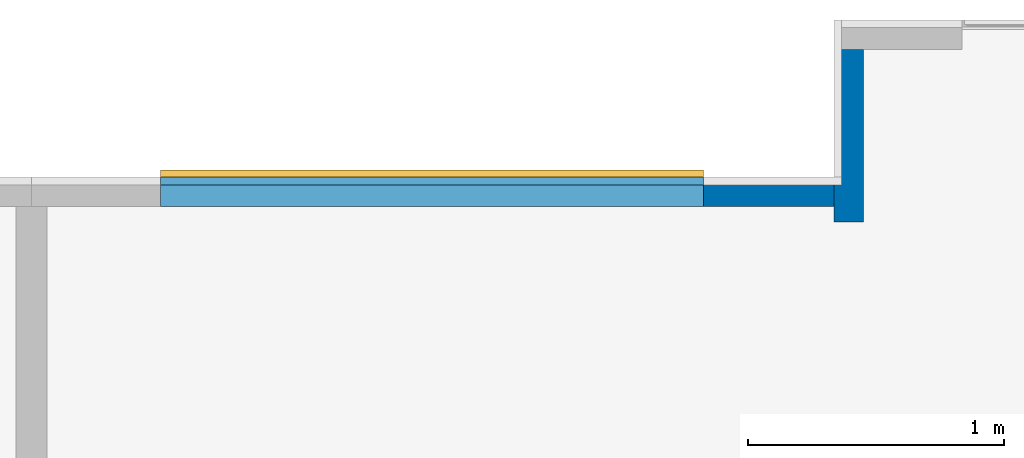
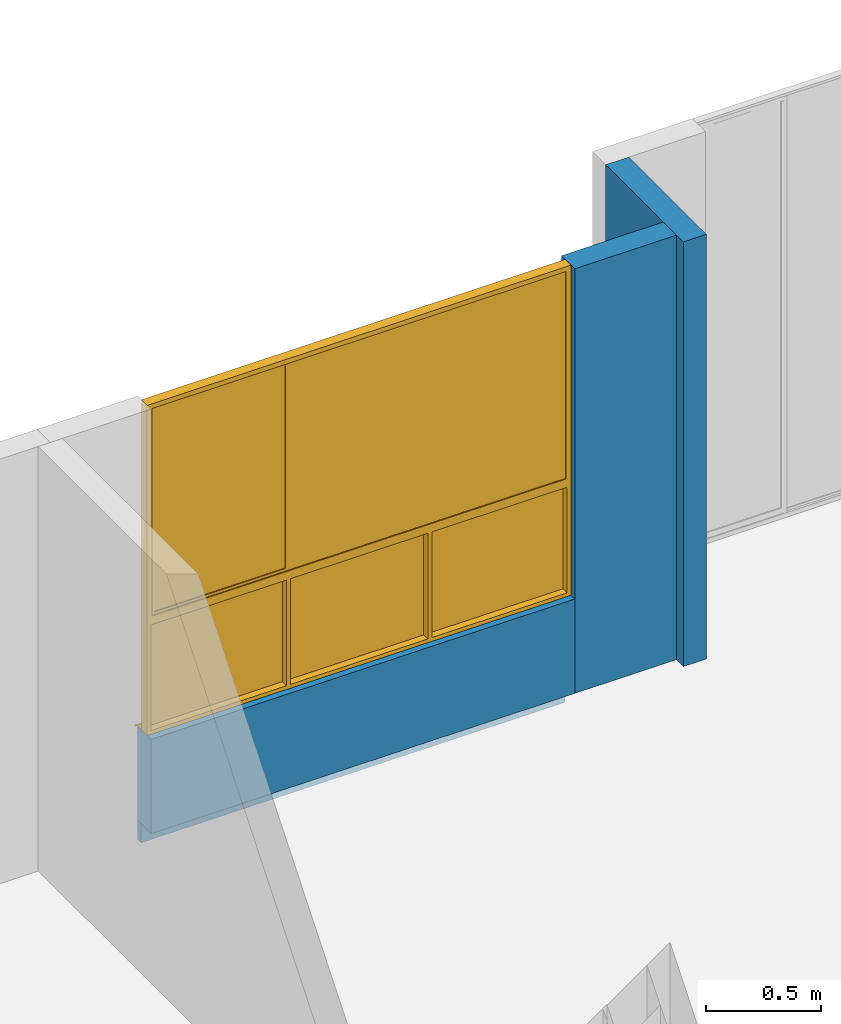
# One storey, part 23 of 48: 4 walls, 1 window, 1 opening.
"""IFC4 building model written with IfcOpenShell, lengths in metres."""

from ifc_helpers import new_model, entity, si_unit, converted_unit, derived_unit, direction, frame, origin, place, context, subcontext, project, spatial, indexed_curve, outline, extrude, polygons, source, transform, mapped, material, constituent, constituent_set, type_object, type_shapes, element, fill, save


model = new_model("IFC4")

# Units and contexts
model_context = context("Model", 3, precision=1e-05, world=origin(), true_north=direction((6.123031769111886e-17, 1.0)))
body_context = subcontext(model_context, "Body", "Model", "MODEL_VIEW")
ifc_project = project(units=[si_unit("LENGTHUNIT", "METRE"), si_unit("AREAUNIT", "SQUARE_METRE"), si_unit("VOLUMEUNIT", "CUBIC_METRE"), converted_unit("PLANEANGLEUNIT", "DEGREE", entity("IfcRatioMeasure", 0.017453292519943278), si_unit("PLANEANGLEUNIT", "RADIAN"), dimensions=[0, 0, 0, 0, 0, 0, 0]), si_unit("MASSUNIT", "GRAM", prefix="KILO"), derived_unit("MASSDENSITYUNIT", [(si_unit("MASSUNIT", "GRAM", prefix="KILO"), 1), (si_unit("LENGTHUNIT", "METRE"), -3)]), derived_unit("IONCONCENTRATIONUNIT", [(si_unit("MASSUNIT", "GRAM", prefix="KILO"), 1), (si_unit("LENGTHUNIT", "METRE"), -3)]), derived_unit("MOMENTOFINERTIAUNIT", [(si_unit("LENGTHUNIT", "METRE"), 4)]), si_unit("TIMEUNIT", "SECOND"), si_unit("FREQUENCYUNIT", "HERTZ"), si_unit("THERMODYNAMICTEMPERATUREUNIT", "DEGREE_CELSIUS"), derived_unit("THERMALTRANSMITTANCEUNIT", [(si_unit("MASSUNIT", "GRAM", prefix="KILO"), 1), (si_unit("THERMODYNAMICTEMPERATUREUNIT", "KELVIN"), -1), (si_unit("TIMEUNIT", "SECOND"), -3)]), derived_unit("THERMALCONDUCTANCEUNIT", [(si_unit("MASSUNIT", "GRAM", prefix="KILO"), 1), (si_unit("THERMODYNAMICTEMPERATUREUNIT", "KELVIN"), -1), (si_unit("TIMEUNIT", "SECOND"), -3), (si_unit("LENGTHUNIT", "METRE"), 1)]), derived_unit("VOLUMETRICFLOWRATEUNIT", [(si_unit("LENGTHUNIT", "METRE"), 3), (si_unit("TIMEUNIT", "SECOND"), -1)]), derived_unit("MASSFLOWRATEUNIT", [(si_unit("MASSUNIT", "GRAM", prefix="KILO"), 1), (si_unit("TIMEUNIT", "SECOND"), -1)]), derived_unit("ROTATIONALFREQUENCYUNIT", [(si_unit("TIMEUNIT", "SECOND"), -1)]), si_unit("ELECTRICCURRENTUNIT", "AMPERE"), si_unit("ELECTRICVOLTAGEUNIT", "VOLT"), si_unit("POWERUNIT", "WATT"), si_unit("FORCEUNIT", "NEWTON", prefix="KILO"), si_unit("ILLUMINANCEUNIT", "LUX"), si_unit("LUMINOUSFLUXUNIT", "LUMEN"), si_unit("LUMINOUSINTENSITYUNIT", "CANDELA"), derived_unit("USERDEFINED", [(si_unit("MASSUNIT", "GRAM", prefix="KILO"), -1), (si_unit("LENGTHUNIT", "METRE"), -2), (si_unit("TIMEUNIT", "SECOND"), 3), (si_unit("LUMINOUSFLUXUNIT", "LUMEN"), 1)]), derived_unit("USERDEFINED", [(si_unit("MASSUNIT", "GRAM", prefix="KILO"), 1), (si_unit("TIMEUNIT", "SECOND"), -3), (si_unit("LENGTHUNIT", "METRE"), 3), (si_unit("ELECTRICCURRENTUNIT", "AMPERE"), -2)]), derived_unit("SOUNDPOWERUNIT", [(si_unit("MASSUNIT", "GRAM", prefix="KILO"), 1), (si_unit("TIMEUNIT", "SECOND"), -3), (si_unit("LENGTHUNIT", "METRE"), 2)]), derived_unit("SOUNDPRESSUREUNIT", [(si_unit("MASSUNIT", "GRAM", prefix="KILO"), 1), (si_unit("LENGTHUNIT", "METRE"), -1), (si_unit("TIMEUNIT", "SECOND"), -2)]), derived_unit("LINEARVELOCITYUNIT", [(si_unit("LENGTHUNIT", "METRE"), 1), (si_unit("TIMEUNIT", "SECOND"), -1)]), si_unit("PRESSUREUNIT", "PASCAL"), derived_unit("USERDEFINED", [(si_unit("MASSUNIT", "GRAM", prefix="KILO"), 1), (si_unit("LENGTHUNIT", "METRE"), -2), (si_unit("TIMEUNIT", "SECOND"), -2)]), derived_unit("LINEARFORCEUNIT", [(si_unit("MASSUNIT", "GRAM", prefix="KILO"), 1), (si_unit("TIMEUNIT", "SECOND"), -2)]), derived_unit("PLANARFORCEUNIT", [(si_unit("MASSUNIT", "GRAM", prefix="KILO"), 1), (si_unit("LENGTHUNIT", "METRE"), -1), (si_unit("TIMEUNIT", "SECOND"), -2)]), derived_unit("SPECIFICHEATCAPACITYUNIT", [(si_unit("THERMODYNAMICTEMPERATUREUNIT", "KELVIN"), -1), (si_unit("LENGTHUNIT", "METRE"), 2), (si_unit("TIMEUNIT", "SECOND"), -2)]), derived_unit("HEATINGVALUEUNIT", [(si_unit("LENGTHUNIT", "METRE"), 2), (si_unit("TIMEUNIT", "SECOND"), -2)]), derived_unit("VAPORPERMEABILITYUNIT", [(si_unit("LENGTHUNIT", "METRE"), -1), (si_unit("TIMEUNIT", "SECOND"), 1)]), derived_unit("DYNAMICVISCOSITYUNIT", [(si_unit("MASSUNIT", "GRAM", prefix="KILO"), 1), (si_unit("TIMEUNIT", "SECOND"), -1), (si_unit("LENGTHUNIT", "METRE"), -1)]), derived_unit("THERMALEXPANSIONCOEFFICIENTUNIT", [(si_unit("THERMODYNAMICTEMPERATUREUNIT", "KELVIN"), -1)]), derived_unit("MODULUSOFELASTICITYUNIT", [(si_unit("MASSUNIT", "GRAM", prefix="KILO"), 1), (si_unit("LENGTHUNIT", "METRE"), -1), (si_unit("TIMEUNIT", "SECOND"), -2)]), derived_unit("ISOTHERMALMOISTURECAPACITYUNIT", [(si_unit("LENGTHUNIT", "METRE"), 3), (si_unit("MASSUNIT", "GRAM", prefix="KILO"), -1)]), derived_unit("MOISTUREDIFFUSIVITYUNIT", [(si_unit("TIMEUNIT", "SECOND"), -1), (si_unit("LENGTHUNIT", "METRE"), 2)])], contexts=[model_context])

# Site, building, storey
site_placement = place(None, origin())
site = spatial("IfcSite", under=ifc_project, at=site_placement, Name="Default", CompositionType="ELEMENT")
building_placement = place(site_placement, origin())
building = spatial("IfcBuilding", under=site, at=building_placement, CompositionType="ELEMENT")
storey_placement = place(building_placement, frame((0.0, 0.0, 9.40000000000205)))
storey = spatial("IfcBuildingStorey", under=building, at=storey_placement, Name="Nivel 5", CompositionType="ELEMENT", Elevation=9.40000000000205)

# Wall
ifc_material_1 = material(Name="Ladrillo claro (Aire)", Category="Materials")
wall_type_1 = type_object("IfcWallType", Name="Basic Wall:B2010 - 0.115m - Muro exterior en mampostería - Ladrillo", PredefinedType="STANDARD")
wall_1_placement = place(storey_placement, frame((12.520000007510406, -0.09500002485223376, 0.0), z_axis=(0.0, 0.0, 1.0), x_axis=(0.0, -1.0, 0.0)))
element("IfcWall", 1, at=wall_1_placement, inside=storey, type_object=wall_type_1, material=ifc_material_1, Name="Basic Wall:B2010 - 0.115m - Muro exterior en mampostería - Ladrillo", ObjectType="Basic Wall:B2010 - 0.115m - Muro exterior en mampostería - Ladrillo", PredefinedType="NOTDEFINED", context=body_context, shape_type="SweptSolid", body=[
    extrude(outline(indexed_curve([(0.67491804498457, 0.05750000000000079), (-7.3257131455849e-18, 0.057499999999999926), (-9.594085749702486e-18, -0.057499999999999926), (0.67491804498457, -0.05749999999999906), (0.67491804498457, 0.05750000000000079)], self_intersect=False)), origin(), (0.0, 0.0, 1.0), 2.25000000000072),
])

# Wall, opening, window
wall_2_placement = place(storey_placement, frame((11.952500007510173, -0.6525000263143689, 0.0), z_axis=(0.0, 0.0, 1.0), x_axis=(-1.0, 0.0, 0.0)))
wall_2 = element("IfcWall", 2, at=wall_2_placement, inside=storey, type_object=wall_type_1, material=ifc_material_1, Name="Basic Wall:B2010 - 0.115m - Muro exterior en mampostería - Ladrillo", ObjectType="Basic Wall:B2010 - 0.115m - Muro exterior en mampostería - Ladrillo", PredefinedType="NOTDEFINED", context=body_context, shape_type="Tessellation", body=[
    polygons([(8.702369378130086e-16, -0.057499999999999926, -1.0828671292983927e-15), (2.1249999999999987, -0.05749999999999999, -1.0828671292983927e-15), (2.1249999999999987, -0.05749999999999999, 0.5000000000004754), (8.702369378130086e-16, -0.057499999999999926, 0.5000000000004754), (2.1249999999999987, 0.05750000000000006, -1.0828671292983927e-15), (1.1112318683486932e-15, 0.05750000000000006, -1.0828671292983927e-15), (1.1112318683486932e-15, 0.05750000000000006, 0.5000000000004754), (2.1249999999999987, 0.05750000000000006, 0.5000000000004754)], [[[1, 2, 3, 4]], [[5, 6, 7, 8]], [[2, 1, 6, 5]], [[2, 5, 8, 3]], [[6, 1, 4, 7]], [[4, 3, 8, 7]]], closed=True),
])
opening_placement = place(wall_2_placement, frame((2.125000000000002, 0.057499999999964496, 0.5000000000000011)))
opening = element("IfcOpeningElement", 3, at=opening_placement, cuts=wall_2, Name="B2020 - 6c Ventana corrediza - Aluminio + Vidrio:B2020 -2.13m x 1.750m - Ventana corrediza 2C - Aluminio + Vidrio:1", PredefinedType="OPENING", context=body_context, shape_type="SweptSolid", body=[
    extrude(outline(indexed_curve([(0.0, -6.998217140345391e-33), (1.7499999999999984, -6.998217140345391e-33), (1.7499999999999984, 2.125), (0.0, 2.125), (0.0, -6.998217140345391e-33)], self_intersect=False)), frame((0.0, 0.0, 0.0), z_axis=(0.0, -1.0, 0.0), x_axis=(0.0, 0.0, 1.0)), (0.0, 0.0, 1.0), 0.115),
])
ifc_material_2 = material(Name="Aluminio", Category="Materials")
ifc_constituent_1 = constituent(ifc_material_2, Name="Aluminio", Category="Materials")
ifc_material_3 = material(Name="Vidrio", Category="Materials")
ifc_constituent_2 = constituent(ifc_material_3, Name="Vidrio", Category="Materials")
ifc_material_4 = material(Name="Alfajía en aluminio", Category="Materials")
ifc_constituent_3 = constituent(ifc_material_4, Name="Alfajía en aluminio", Category="Materials")
ifc_constituent_set_1 = constituent_set(constituents=[ifc_constituent_1, ifc_constituent_2, ifc_constituent_3])
ifc_constituent_4 = constituent(ifc_material_2, Name="Aluminio", Category="Materials")
ifc_constituent_5 = constituent(ifc_material_3, Name="Vidrio", Category="Materials")
ifc_constituent_6 = constituent(ifc_material_4, Name="Alfajía en aluminio", Category="Materials")
ifc_constituent_set_2 = constituent_set(constituents=[ifc_constituent_4, ifc_constituent_5, ifc_constituent_6])
window_type = type_object("IfcWindowType", Name="B2020 - 6c Ventana corrediza - Aluminio + Vidrio:B2020 -2.13m x 1.750m - Ventana corrediza 2C - Aluminio + Vidrio", PartitioningType="NOTDEFINED", PredefinedType="WINDOW", material=ifc_constituent_set_2)
shared_shape = source(origin(), body_context, "Body", "Tessellation", [
    polygons([(0.024999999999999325, 0.03749999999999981, 1.7249999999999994), (0.025000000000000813, 0.032499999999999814, 1.7249999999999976), (0.025000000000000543, 0.032499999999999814, 0.6249999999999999), (0.024999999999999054, 0.03749999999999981, 0.6249999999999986), (2.1249999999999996, 0.03249999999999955, 0.5999999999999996), (2.1249999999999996, 0.03249999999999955, 1.749999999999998), (5.414335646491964e-16, 0.032499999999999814, 1.749999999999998), (2.707167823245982e-16, 0.032499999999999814, 0.5999999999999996), (2.099999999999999, 0.03249999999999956, 0.6249999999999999), (2.099999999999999, 0.032499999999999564, 1.7249999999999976), (2.1000000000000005, 0.03749999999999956, 0.6249999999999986), (2.1000000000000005, 0.03749999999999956, 1.7249999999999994), (2.1050000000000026, 0.03749999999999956, 0.6199999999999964), (0.01999999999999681, 0.03749999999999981, 0.6199999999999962), (0.01999999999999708, 0.03749999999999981, 1.7300000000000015), (2.1050000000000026, 0.03749999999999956, 1.7300000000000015), (0.01999999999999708, 0.05499999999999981, 1.7300000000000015), (0.01999999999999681, 0.05499999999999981, 0.6199999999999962), (2.1050000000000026, 0.05499999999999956, 0.6199999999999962), (2.1050000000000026, 0.05499999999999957, 1.7300000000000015), (2.099999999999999, 0.05499999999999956, 0.6249999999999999), (0.025000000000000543, 0.05499999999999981, 0.6249999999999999), (0.025000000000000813, 0.05499999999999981, 1.7249999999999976), (2.099999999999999, 0.05499999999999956, 1.7249999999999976), (0.025000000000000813, 0.05999999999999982, 1.7249999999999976), (0.025000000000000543, 0.05999999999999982, 0.6249999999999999), (2.099999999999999, 0.059999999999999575, 0.6249999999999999), (2.099999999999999, 0.059999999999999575, 1.7249999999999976), (2.119999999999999, 0.05999999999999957, 0.6049999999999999), (0.005000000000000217, 0.05999999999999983, 0.6049999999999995), (0.0050000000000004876, 0.05999999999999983, 1.744999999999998), (2.119999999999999, 0.05999999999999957, 1.744999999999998), (0.0050000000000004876, 0.07749999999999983, 1.744999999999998), (0.005000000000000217, 0.07749999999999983, 0.6049999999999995), (2.119999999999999, 0.07749999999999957, 0.6049999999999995), (2.119999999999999, 0.07749999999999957, 1.744999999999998), (2.099999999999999, 0.07749999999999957, 0.6249999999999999), (0.025000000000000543, 0.07749999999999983, 0.6249999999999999), (0.025000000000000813, 0.07749999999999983, 1.7249999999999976), (2.099999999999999, 0.07749999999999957, 1.7249999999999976), (0.025000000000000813, 0.08249999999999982, 1.7249999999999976), (0.025000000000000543, 0.08249999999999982, 0.6249999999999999), (2.099999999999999, 0.08249999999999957, 0.6249999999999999), (2.099999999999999, 0.08249999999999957, 1.7249999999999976), (2.1249999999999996, 0.08249999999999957, 0.5999999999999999), (2.707167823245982e-16, 0.08249999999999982, 0.5999999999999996), (5.414335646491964e-16, 0.08249999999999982, 1.749999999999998), (2.1249999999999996, 0.08249999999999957, 1.749999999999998)], [[[1, 2, 3, 4]], [[5, 6, 7, 8], [9, 3, 2, 10]], [[4, 3, 9, 11]], [[13, 14, 15, 16], [11, 12, 1, 4]], [[17, 15, 14, 18]], [[18, 14, 13, 19]], [[19, 20, 17, 18], [21, 22, 23, 24]], [[25, 23, 22, 26]], [[26, 22, 21, 27]], [[29, 30, 31, 32], [27, 28, 25, 26]], [[33, 31, 30, 34]], [[34, 30, 29, 35]], [[35, 36, 33, 34], [37, 38, 39, 40]], [[41, 39, 38, 42]], [[42, 38, 37, 43]], [[45, 46, 47, 48], [43, 44, 41, 42]], [[7, 47, 46, 8]], [[8, 46, 45, 5]], [[11, 9, 10, 12]], [[19, 13, 16, 20]], [[27, 21, 24, 28]], [[35, 29, 32, 36]], [[43, 37, 40, 44]], [[5, 45, 48, 6]], [[12, 10, 2, 1]], [[20, 16, 15, 17]], [[28, 24, 23, 25]], [[36, 32, 31, 33]], [[44, 40, 39, 41]], [[6, 48, 47, 7]]], closed=True),
    polygons([(1.4266666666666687, 0.08249999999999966, 0.6249999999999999), (1.4266666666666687, 0.05999999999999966, 0.6249999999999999), (1.406666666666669, 0.05999999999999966, 0.6249999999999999), (1.406666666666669, 0.08249999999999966, 0.6249999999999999), (1.4266666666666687, 0.08249999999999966, 1.7249999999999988), (1.4266666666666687, 0.05999999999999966, 1.7249999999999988), (1.406666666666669, 0.05999999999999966, 1.7249999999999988), (1.406666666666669, 0.08249999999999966, 1.7249999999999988)], [[[1, 2, 3, 4]], [[5, 6, 2, 1]], [[6, 7, 3, 2]], [[7, 8, 4, 3]], [[8, 5, 1, 4]], [[5, 8, 7, 6]]], closed=True),
    polygons([(0.7058333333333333, 0.06674999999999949, 1.7299999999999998), (0.7058333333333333, 0.06674999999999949, 0.6174999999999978), (2.099999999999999, 0.06674999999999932, 0.6174999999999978), (2.099999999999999, 0.06674999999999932, 1.7299999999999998), (0.7058333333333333, 0.0707499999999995, 1.7299999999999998), (0.7058333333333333, 0.0707499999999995, 0.6174999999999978), (2.099999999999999, 0.07074999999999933, 0.6174999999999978), (2.099999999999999, 0.07074999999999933, 1.7299999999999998)], [[[1, 2, 3, 4]], [[2, 1, 5, 6]], [[3, 2, 6, 7]], [[4, 3, 7, 8]], [[5, 8, 7, 6]], [[1, 4, 8, 5]]], closed=True),
    polygons([(0.7058333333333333, 0.07074999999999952, 0.6225000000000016), (0.7058333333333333, 0.06674999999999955, 0.6225000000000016), (2.095000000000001, 0.06674999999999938, 0.6225000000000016), (2.095000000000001, 0.07074999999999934, 0.6225000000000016), (2.0950000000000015, 0.06674999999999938, 1.730000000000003), (2.0950000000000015, 0.07074999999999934, 1.730000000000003), (0.7058333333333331, 0.06674999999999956, 1.730000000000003), (2.0800000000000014, 0.06674999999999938, 1.7150000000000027), (0.7208333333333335, 0.06674999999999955, 1.7150000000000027), (0.7208333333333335, 0.06674999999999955, 0.637500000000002), (2.080000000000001, 0.06674999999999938, 0.637500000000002), (2.080000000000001, 0.07074999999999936, 0.6375000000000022), (0.7208333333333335, 0.07074999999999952, 0.637500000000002), (0.7208333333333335, 0.07074999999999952, 1.7150000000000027), (2.0800000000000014, 0.07074999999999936, 1.7150000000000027), (0.7058333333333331, 0.07074999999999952, 1.730000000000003), (0.7208333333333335, 0.07549999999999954, 0.637500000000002), (2.080000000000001, 0.07549999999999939, 0.637500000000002), (2.0800000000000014, 0.07549999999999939, 1.7150000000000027), (2.1000000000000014, 0.07549999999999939, 0.6175000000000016), (0.7008333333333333, 0.07549999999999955, 0.6175000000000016), (0.7008333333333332, 0.07549999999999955, 1.735000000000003), (2.1000000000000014, 0.07549999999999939, 1.735000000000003), (0.7208333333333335, 0.07549999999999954, 1.7150000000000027), (0.7008333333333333, 0.06199999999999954, 0.6175000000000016), (2.1000000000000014, 0.061999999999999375, 0.6175000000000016), (2.1000000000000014, 0.061999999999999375, 1.735000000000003), (2.080000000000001, 0.06199999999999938, 0.6375000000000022), (0.7208333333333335, 0.06199999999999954, 0.637500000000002), (0.7208333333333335, 0.06199999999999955, 1.7150000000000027), (2.0800000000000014, 0.06199999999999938, 1.7150000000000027), (0.7008333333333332, 0.06199999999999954, 1.735000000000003)], [[[1, 2, 3, 4]], [[4, 3, 5, 6]], [[3, 2, 7, 5], [8, 9, 10, 11]], [[6, 16, 1, 4], [12, 13, 14, 15]], [[17, 13, 12, 18]], [[18, 12, 15, 19]], [[20, 21, 22, 23], [19, 24, 17, 18]], [[25, 21, 20, 26]], [[26, 20, 23, 27]], [[27, 32, 25, 26], [28, 29, 30, 31]], [[10, 29, 28, 11]], [[11, 28, 31, 8]], [[16, 7, 2, 1]], [[24, 14, 13, 17]], [[32, 22, 21, 25]], [[9, 30, 29, 10]], [[6, 5, 7, 16]], [[19, 15, 14, 24]], [[27, 23, 22, 32]], [[8, 31, 30, 9]]], closed=True),
    polygons([(0.025000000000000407, 0.04424999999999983, 1.7299999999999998), (0.025000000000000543, 0.04424999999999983, 0.6174999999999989), (0.713333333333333, 0.04424999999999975, 0.6174999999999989), (0.7133333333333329, 0.04424999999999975, 1.7299999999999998), (0.025000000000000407, 0.04824999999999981, 1.7299999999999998), (0.025000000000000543, 0.04824999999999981, 0.6174999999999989), (0.713333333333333, 0.048249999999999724, 0.6174999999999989), (0.7133333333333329, 0.048249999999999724, 1.7299999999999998)], [[[1, 2, 3, 4]], [[2, 1, 5, 6]], [[3, 2, 6, 7]], [[4, 3, 7, 8]], [[5, 8, 7, 6]], [[1, 4, 8, 5]]], closed=True),
    polygons([(0.025000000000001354, 0.04824999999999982, 0.6224999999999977), (0.025000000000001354, 0.04424999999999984, 0.6224999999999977), (0.713333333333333, 0.044249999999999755, 0.6224999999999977), (0.713333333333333, 0.04824999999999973, 0.6224999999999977), (0.713333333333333, 0.044249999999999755, 1.729999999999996), (0.713333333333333, 0.04824999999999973, 1.729999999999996), (0.025000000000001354, 0.04424999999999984, 1.729999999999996), (0.6983333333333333, 0.044249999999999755, 1.714999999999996), (0.040000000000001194, 0.04424999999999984, 1.714999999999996), (0.040000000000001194, 0.04424999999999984, 0.6374999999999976), (0.6983333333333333, 0.044249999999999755, 0.6374999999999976), (0.6983333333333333, 0.04824999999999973, 0.6374999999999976), (0.040000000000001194, 0.04824999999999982, 0.6374999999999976), (0.040000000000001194, 0.04824999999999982, 1.714999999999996), (0.6983333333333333, 0.04824999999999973, 1.714999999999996), (0.025000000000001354, 0.04824999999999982, 1.729999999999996), (0.040000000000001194, 0.052999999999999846, 0.6374999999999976), (0.6983333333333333, 0.05299999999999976, 0.6374999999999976), (0.6983333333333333, 0.05299999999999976, 1.714999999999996), (0.7183333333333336, 0.052999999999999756, 0.6174999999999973), (0.020000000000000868, 0.052999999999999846, 0.6174999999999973), (0.020000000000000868, 0.052999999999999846, 1.7349999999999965), (0.7183333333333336, 0.05299999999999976, 1.7349999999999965), (0.040000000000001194, 0.052999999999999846, 1.714999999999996), (0.020000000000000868, 0.03949999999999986, 0.6174999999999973), (0.7183333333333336, 0.03949999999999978, 0.6174999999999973), (0.7183333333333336, 0.03949999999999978, 1.7349999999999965), (0.6983333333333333, 0.039499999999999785, 0.6374999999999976), (0.040000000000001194, 0.039499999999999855, 0.6374999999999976), (0.040000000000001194, 0.039499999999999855, 1.714999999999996), (0.6983333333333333, 0.03949999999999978, 1.714999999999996), (0.020000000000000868, 0.03949999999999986, 1.7349999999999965)], [[[1, 2, 3, 4]], [[4, 3, 5, 6]], [[3, 2, 7, 5], [8, 9, 10, 11]], [[6, 16, 1, 4], [12, 13, 14, 15]], [[17, 13, 12, 18]], [[18, 12, 15, 19]], [[20, 21, 22, 23], [19, 24, 17, 18]], [[25, 21, 20, 26]], [[26, 20, 23, 27]], [[27, 32, 25, 26], [28, 29, 30, 31]], [[10, 29, 28, 11]], [[11, 28, 31, 8]], [[16, 7, 2, 1]], [[24, 14, 13, 17]], [[32, 22, 21, 25]], [[9, 30, 29, 10]], [[6, 5, 7, 16]], [[19, 15, 14, 24]], [[27, 23, 22, 32]], [[8, 31, 30, 9]]], closed=True),
    polygons([(2.1049999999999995, 0.04424999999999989, 1.7299999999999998), (0.025000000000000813, 0.04424999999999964, 1.7299999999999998), (0.025000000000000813, 0.04424999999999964, 0.6174999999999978), (2.1049999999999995, 0.04424999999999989, 0.6174999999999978), (0.025000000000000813, 0.04824999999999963, 1.7299999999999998), (0.025000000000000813, 0.04824999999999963, 0.6174999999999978), (2.1049999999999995, 0.04824999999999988, 0.6174999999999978), (2.1049999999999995, 0.04824999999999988, 1.7299999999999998)], [[[1, 2, 3, 4]], [[3, 2, 5, 6]], [[4, 3, 6, 7]], [[1, 4, 7, 8]], [[8, 7, 6, 5]], [[2, 1, 8, 5]]], closed=True),
    polygons([(0.020000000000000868, 0.06674999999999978, 1.7299999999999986), (0.020000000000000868, 0.06674999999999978, 0.6174999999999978), (2.1049999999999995, 0.06674999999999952, 0.6174999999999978), (2.104999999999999, 0.06674999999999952, 1.7299999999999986), (0.020000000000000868, 0.07074999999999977, 1.7299999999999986), (0.020000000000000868, 0.07074999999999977, 0.6174999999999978), (2.1049999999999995, 0.07074999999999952, 0.6174999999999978), (2.104999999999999, 0.07074999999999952, 1.7299999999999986)], [[[1, 2, 3, 4]], [[2, 1, 5, 6]], [[3, 2, 6, 7]], [[4, 3, 7, 8]], [[5, 8, 7, 6]], [[1, 4, 8, 5]]], closed=True),
    polygons([(0.019999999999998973, 0.06813901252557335, 0.5800000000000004), (0.01999999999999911, 0.06813901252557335, 0.019999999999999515), (2.1050000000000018, 0.06813901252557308, 0.019999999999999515), (2.1050000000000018, 0.06813901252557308, 0.5800000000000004), (0.019999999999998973, 0.07213901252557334, 0.5800000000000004), (2.1050000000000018, 0.07213901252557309, 0.5800000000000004), (2.1050000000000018, 0.07213901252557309, 0.019999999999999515), (0.01999999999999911, 0.07213901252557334, 0.019999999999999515)], [[[1, 2, 3, 4]], [[5, 6, 7, 8]], [[2, 1, 5, 8]], [[3, 2, 8, 7]], [[4, 3, 7, 6]], [[1, 4, 6, 5]]], closed=True),
    polygons([(1.4266666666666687, 0.08250000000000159, 0.5799999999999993), (1.406666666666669, 0.08250000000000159, 0.5799999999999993), (1.406666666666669, 0.03250000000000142, 0.5799999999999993), (1.4266666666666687, 0.03250000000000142, 0.5799999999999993), (1.4266666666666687, 0.08250000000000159, 0.019999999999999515), (1.4266666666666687, 0.03250000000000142, 0.019999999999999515), (1.406666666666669, 0.03250000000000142, 0.019999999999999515), (1.406666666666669, 0.08250000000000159, 0.019999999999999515)], [[[1, 2, 3, 4]], [[5, 6, 7, 8]], [[2, 1, 5, 8]], [[3, 2, 8, 7]], [[4, 3, 7, 6]], [[1, 4, 6, 5]]], closed=True),
    polygons([(4.060751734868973e-16, 0.08249999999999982, 4.060751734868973e-16), (2.707167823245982e-16, 0.08249999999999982, 0.5999999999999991), (2.1249999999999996, 0.08249999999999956, 0.5999999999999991), (2.125, 0.08249999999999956, 2.707167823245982e-16), (0.718333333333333, 0.08250000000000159, 0.5799999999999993), (0.718333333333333, 0.08250000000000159, 0.01999999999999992), (2.105, 0.0825000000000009, 0.020000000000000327), (2.105, 0.0825000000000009, 0.5799999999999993), (0.6983333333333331, 0.08250000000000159, 0.01999999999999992), (0.6983333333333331, 0.08250000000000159, 0.5799999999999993), (0.020000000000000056, 0.08250000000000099, 0.5799999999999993), (0.020000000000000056, 0.08250000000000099, 0.020000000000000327), (0.6983333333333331, 0.03250000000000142, 0.01999999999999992), (0.6983333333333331, 0.03250000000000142, 0.5799999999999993), (0.02000000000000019, 0.032499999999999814, 0.020000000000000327), (0.020000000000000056, 0.032499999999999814, 0.5799999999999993), (4.060751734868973e-16, 0.03250000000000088, 0.5999999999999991), (4.060751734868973e-16, 0.03250000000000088, 4.060751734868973e-16), (2.125, 0.0325000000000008, 4.060751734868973e-16), (2.125, 0.0325000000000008, 0.5999999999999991), (0.7183333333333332, 0.03250000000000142, 0.01999999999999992), (0.718333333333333, 0.03250000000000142, 0.5799999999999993), (2.105, 0.03249999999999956, 0.5799999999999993), (2.105, 0.03249999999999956, 0.020000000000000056)], [[[1, 2, 3, 4], [5, 6, 7, 8], [9, 10, 11, 12]], [[10, 9, 13, 14]], [[17, 18, 19, 20], [14, 13, 15, 16], [21, 22, 23, 24]], [[6, 5, 22, 21]], [[11, 16, 15, 12]], [[17, 2, 1, 18]], [[12, 15, 13, 9]], [[18, 1, 4, 19]], [[7, 24, 23, 8]], [[19, 4, 3, 20]], [[8, 23, 22, 5]], [[2, 17, 20, 3]], [[16, 11, 10, 14]], [[24, 7, 6, 21]]], closed=True),
    polygons([(0.7183333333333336, 0.07213901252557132, 0.5849999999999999), (0.7183333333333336, 0.06813901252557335, 0.5849999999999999), (2.1050000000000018, 0.06813901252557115, 0.5849999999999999), (2.1050000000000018, 0.07213901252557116, 0.5849999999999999), (0.7183333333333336, 0.07213901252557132, 0.019999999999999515), (2.1050000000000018, 0.07213901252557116, 0.019999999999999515), (2.1050000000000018, 0.06813901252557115, 0.019999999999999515), (0.7183333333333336, 0.06813901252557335, 0.019999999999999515)], [[[1, 2, 3, 4]], [[5, 6, 7, 8]], [[1, 4, 6, 5]], [[4, 3, 7, 6]], [[3, 2, 8, 7]], [[2, 1, 5, 8]]], closed=True),
    polygons([(-8.121503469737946e-16, 0.11499999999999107, -4.060751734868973e-16), (-8.121503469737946e-16, 0.08249999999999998, -4.060751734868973e-16), (-8.121503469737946e-16, 0.08249999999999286, 0.0049999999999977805), (-8.121503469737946e-16, 0.11633974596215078, 0.0049999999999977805), (-6.767919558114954e-16, 0.14348076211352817, -0.010669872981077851), (-6.767919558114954e-16, 0.1409807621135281, -0.015000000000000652), (2.124999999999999, 0.11499999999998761, -4.060751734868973e-16), (2.124999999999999, 0.14098076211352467, -0.015000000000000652), (2.124999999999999, 0.1434807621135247, -0.010669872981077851), (2.124999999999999, 0.11633974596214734, 0.0049999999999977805), (2.124999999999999, 0.0824999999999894, 0.0049999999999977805), (2.124999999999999, 0.08249999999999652, -4.060751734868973e-16)], [[[1, 2, 3, 4, 5, 6]], [[7, 8, 9, 10, 11, 12]], [[2, 1, 7, 12]], [[3, 2, 12, 11]], [[4, 3, 11, 10]], [[5, 4, 10, 9]], [[6, 5, 9, 8]], [[1, 6, 8, 7]]], closed=True),
    polygons([(0.6983333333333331, 0.07213901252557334, 0.5849999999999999), (0.01999999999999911, 0.07213901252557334, 0.5849999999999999), (0.019999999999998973, 0.06813901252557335, 0.5849999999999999), (0.6983333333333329, 0.06813901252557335, 0.5849999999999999), (0.6983333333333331, 0.07213901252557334, 0.019999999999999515), (0.6983333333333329, 0.06813901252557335, 0.019999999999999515), (0.019999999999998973, 0.06813901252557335, 0.019999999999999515), (0.01999999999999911, 0.07213901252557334, 0.019999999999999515)], [[[1, 2, 3, 4]], [[5, 6, 7, 8]], [[2, 1, 5, 8]], [[3, 2, 8, 7]], [[4, 3, 7, 6]], [[1, 4, 6, 5]]], closed=True),
])
type_shapes(window_type, [shared_shape])
window_placement = place(opening_placement, frame((0.0, 0.0, 0.0), z_axis=(0.0, 0.0, 1.0), x_axis=(-1.0, 0.0, 0.0)))
window = element("IfcWindow", 4, at=window_placement, inside=storey, type_object=window_type, material=ifc_constituent_set_1, Name="B2020 - 6c Ventana corrediza - Aluminio + Vidrio:B2020 -2.13m x 1.750m - Ventana corrediza 2C - Aluminio + Vidrio", ObjectType="B2020 - 6c Ventana corrediza - Aluminio + Vidrio:B2020 -2.13m x 1.750m - Ventana corrediza 2C - Aluminio + Vidrio", OverallHeight=1.7499999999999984, OverallWidth=2.125000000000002, PartitioningType="NOTDEFINED", PredefinedType="WINDOW", context=body_context, shape_type="MappedRepresentation", body=[
    mapped(shared_shape, transform((0.0, 0.0, 0.0), scale=1.0)),
])
fill(opening, window)

# Walls
ifc_material_5 = material(Name="LADRILLO CLARO", Category="Materials")
wall_type_2 = type_object("IfcWallType", Name="Basic Wall:B2010 - 0.115m - ME mampostería no estructural - Ladrillo", PredefinedType="STANDARD")
wall_3_placement = place(storey_placement, frame((12.462500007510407, -0.6525000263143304, 0.0), z_axis=(0.0, 0.0, 1.0), x_axis=(-1.0, 0.0, 0.0)))
element("IfcWall", 5, at=wall_3_placement, inside=storey, type_object=wall_type_2, material=ifc_material_5, Name="Basic Wall:B2010 - 0.115m - ME mampostería no estructural - Ladrillo", ObjectType="Basic Wall:B2010 - 0.115m - ME mampostería no estructural - Ladrillo", PredefinedType="NOTDEFINED", context=body_context, shape_type="SweptSolid", body=[
    extrude(outline(indexed_curve([(0.5100000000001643, 0.05750000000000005), (8.696985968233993e-16, 0.05750000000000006), (-8.6969859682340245e-16, -0.057499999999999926), (0.5100000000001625, -0.05749999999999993), (0.5100000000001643, 0.05750000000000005)], self_intersect=False)), origin(), (0.0, 0.0, 1.0), 2.2500000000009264),
])
wall_type_3 = type_object("IfcWallType", Name="Basic Wall:B2010 - 0.03m - ME enchape  no estructural - Ladrillo", PredefinedType="STANDARD")
wall_4_placement = place(storey_placement, frame((9.827500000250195, -0.6100000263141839, -0.1000000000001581)))
element("IfcWall", 6, at=wall_4_placement, inside=storey, type_object=wall_type_3, material=ifc_material_5, Name="Basic Wall:B2010 - 0.03m - ME enchape  no estructural - Ladrillo", ObjectType="Basic Wall:B2010 - 0.03m - ME enchape  no estructural - Ladrillo", PredefinedType="NOTDEFINED", context=body_context, shape_type="SweptSolid", body=[
    extrude(outline(indexed_curve([(2.125000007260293, 0.014999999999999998), (-4.7460613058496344e-17, 0.014999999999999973), (4.7460613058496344e-17, -0.014999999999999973), (2.125000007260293, -0.014999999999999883), (2.125000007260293, 0.014999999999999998)], self_intersect=False)), origin(), (0.0, 0.0, 1.0), 0.09999999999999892),
])

save(model, "model.ifc")
